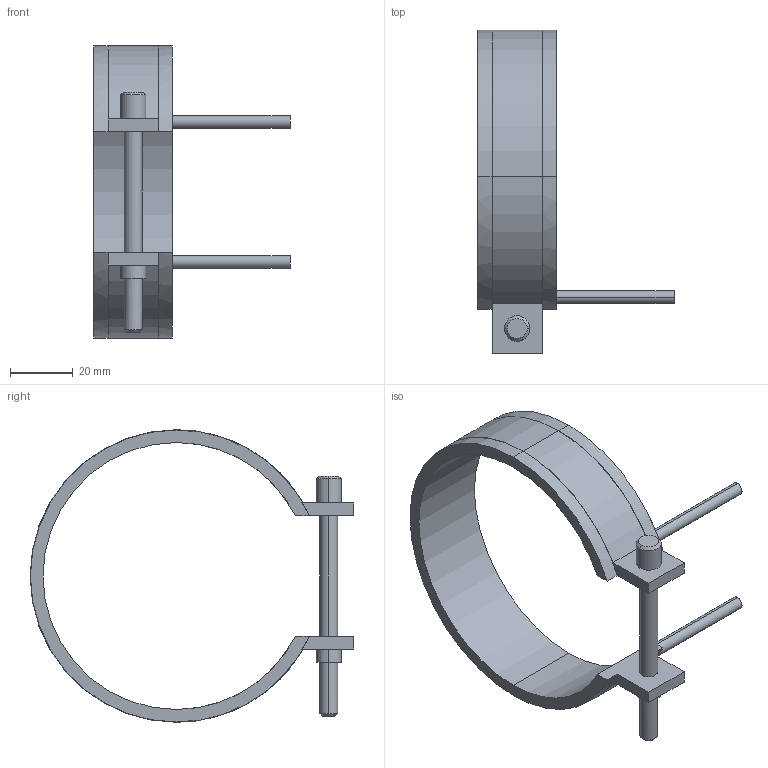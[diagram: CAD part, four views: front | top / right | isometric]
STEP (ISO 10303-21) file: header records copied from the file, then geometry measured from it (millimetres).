
FILE_DESCRIPTION(('CATIA V5 STEP Exchange'),'2;1');
FILE_NAME('C:\Users\Utente\Desktop\IO LAVORO\3D X SITO CF\X SITO\PLASTICA\RF2\14085025.stp','2021-04-06T16:24:42+00:00',('none'),('none'),'CATIA Version 5 Release 20 GA (IN-10)','CATIA V5 STEP AP203','none');
FILE_SCHEMA(('CONFIG_CONTROL_DESIGN'));
Length unit declared in the file: millimetre
Products named in the file (1): 14085025
Bounding box: 62.5 x 103.1 x 93.2 mm (x, y, z)
Volume: 29299.3 mm3; surface area: 17569.1 mm2
Topology: 1 solids, 1 shells, 45 faces, 116 edges, 76 vertices
Faces by surface type: cylinder 24, plane 17, cone 4
Entity records: 1418 total; most frequent: CARTESIAN_POINT 296, ORIENTED_EDGE 232, DIRECTION 194, EDGE_CURVE 116, AXIS2_PLACEMENT_3D 102, VERTEX_POINT 76, CIRCLE 60, VECTOR 52
